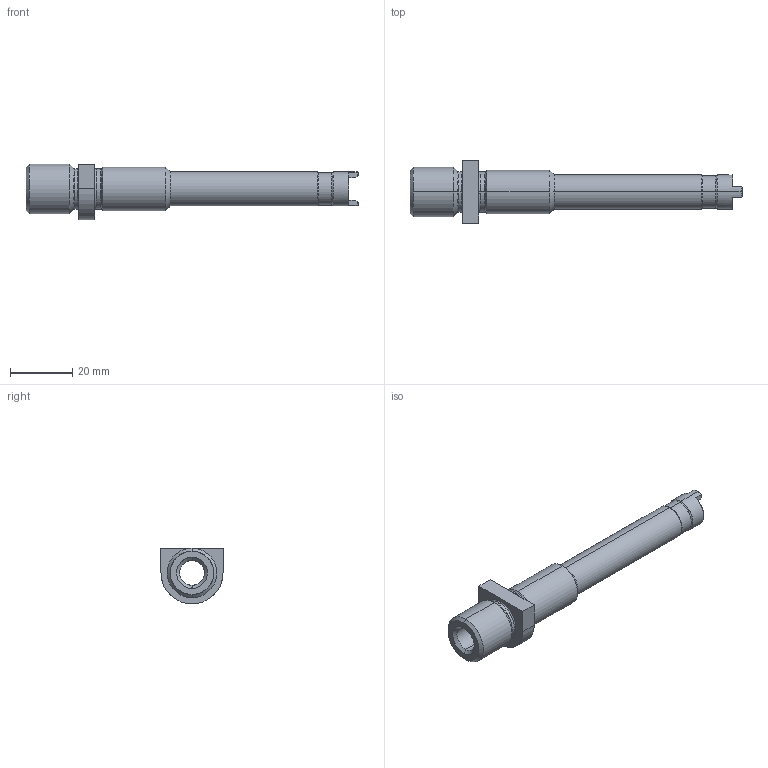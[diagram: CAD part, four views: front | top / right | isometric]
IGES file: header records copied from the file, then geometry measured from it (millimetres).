
Start section: SolidWorks IGES file using analytic representation for surfaces
Global section: file name: C:\Users\e.bondaruk\Desktop\縺 嚦闉鍙酀50.10.1010-00.02.IGS; native system: SolidWorks 2022; preprocessor: SolidWorks 2022; author: e.bondaruk; date: 230210.120603; units: millimetre
Bounding box: 107 x 20 x 18 mm (x, y, z)
Surface area: 7462.7 mm2 (no closed solid volume)
Topology: 0 solids, 0 shells, 63 faces, 504 edges, 504 vertices
Faces by surface type: revolution 33, bspline 30
